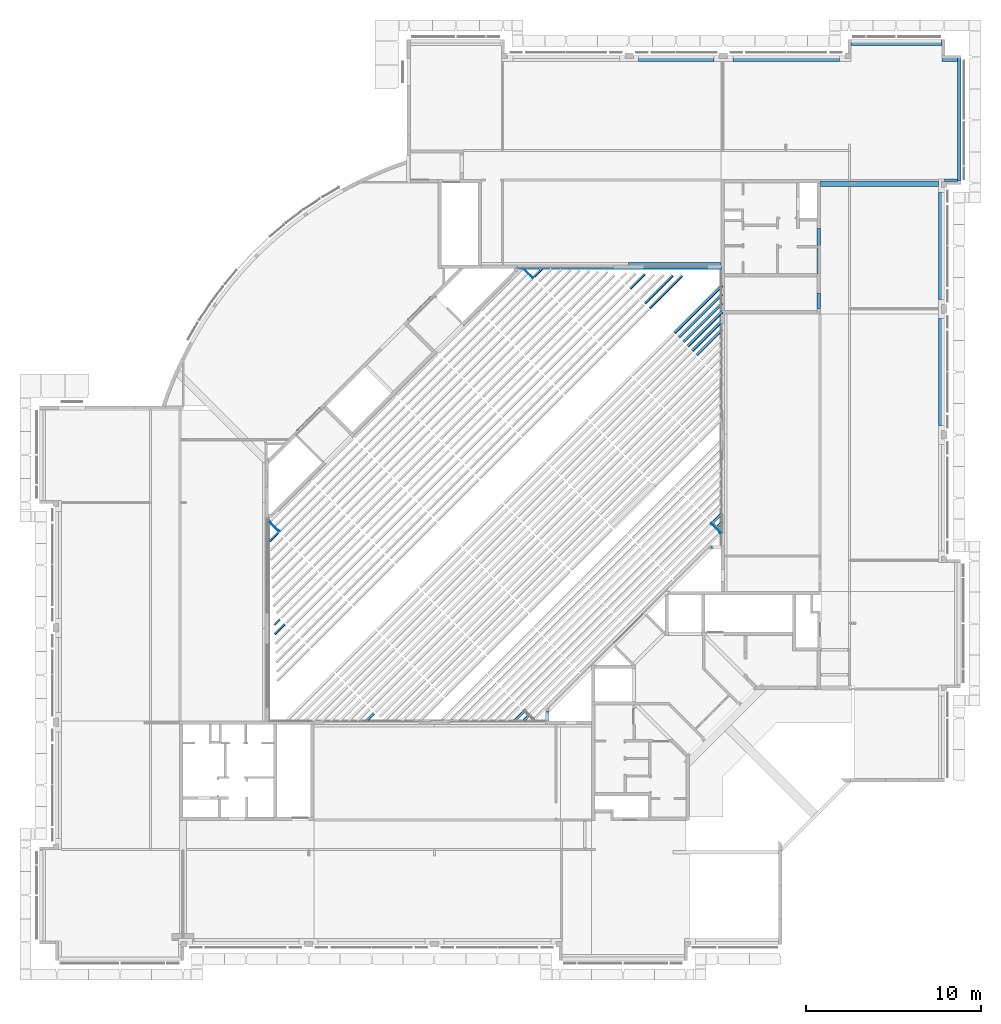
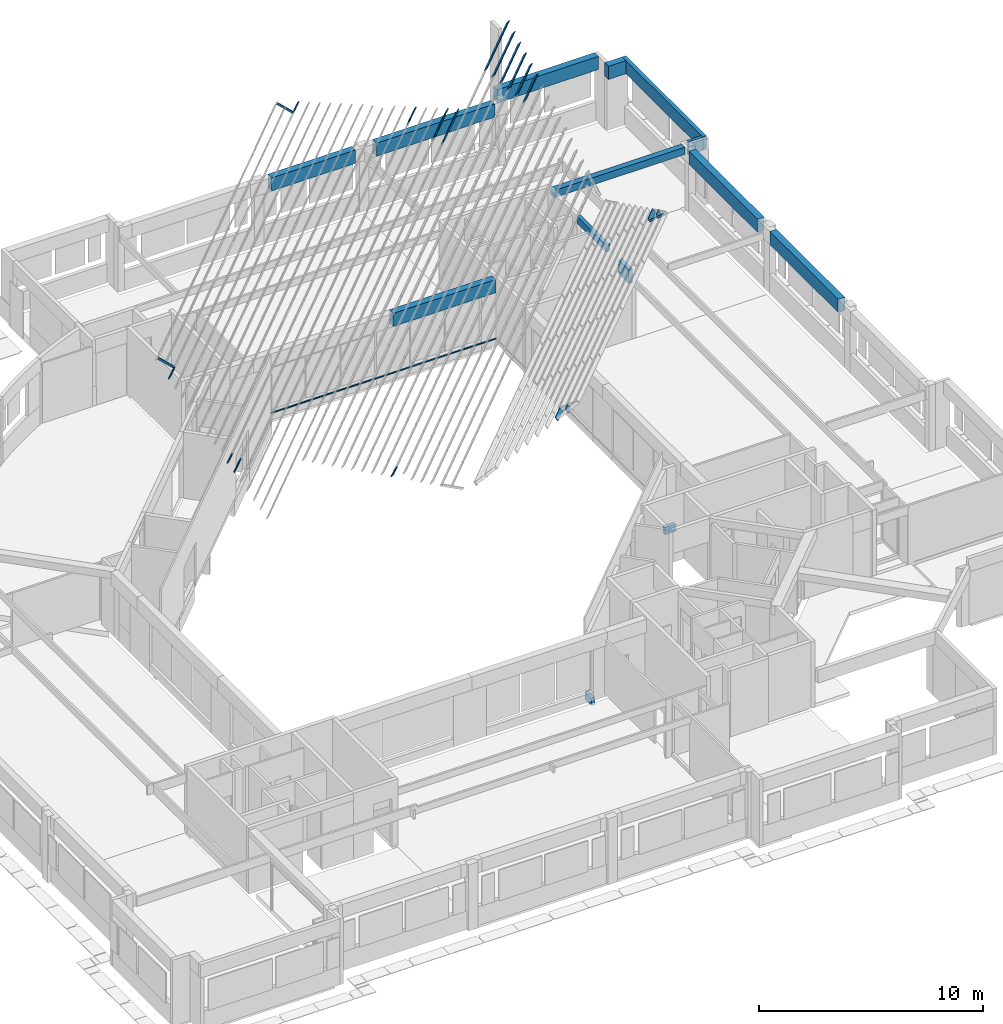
# One storey, part 14 of 37: 35 beams, 1 member.
"""IFC4X3_ADD2 building model written with IfcOpenShell, lengths in millimetres."""

from ifc_helpers import new_model, si_unit, direction, frame, frame_2d, origin_with_axes, origin_2d_with_axis, place, context, subcontext, project, spatial, rectangle, extrude, polygons, source, transform, mapped, material, type_object, type_shapes, element, save


model = new_model("IFC4X3_ADD2")

# Units and contexts
model_context = context("Model", 3, precision=1e-05, world=origin_with_axes(), true_north=direction((0.0, 1.0)))
body_context = subcontext(model_context, "Body", "Model", "MODEL_VIEW")
ifc_project = project(units=[si_unit("LENGTHUNIT", "METRE", prefix="MILLI"), si_unit("AREAUNIT", "SQUARE_METRE"), si_unit("VOLUMEUNIT", "CUBIC_METRE"), si_unit("PLANEANGLEUNIT", "RADIAN"), si_unit("TIMEUNIT", "SECOND"), si_unit("MASSUNIT", "GRAM")], contexts=[model_context])

# Site, building, storey
site_placement = place(None, origin_with_axes())
site = spatial("IfcSite", under=ifc_project, at=site_placement, Name="Site", CompositionType="ELEMENT")
building_placement = place(site_placement, origin_with_axes())
building = spatial("IfcBuilding", under=site, at=building_placement, Name="IFC Building Story")
storey_placement = place(building_placement, frame((0.0, 0.0, 3600.0), z_axis=(0.0, 0.0, 1.0), x_axis=(1.0, 0.0, 0.0)))
storey = spatial("IfcBuildingStorey", under=building, at=storey_placement, Name="010", Elevation=3600.0)

# Beams
ifc_material_1 = material(Name="BB_Beton_Bestaand")
beam_type_1 = type_object("IfcBeamType", Name="BB_XX_Betonbalk_ rechthoekig_ center-center_SFB_340 x 720 mm1", PredefinedType="NOTDEFINED")
shared_shape_1 = source(origin_with_axes(), body_context, "Body", "SweptSolid", [
    extrude(rectangle(XDim=5209.99999999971, YDim=340.0, at=origin_2d_with_axis()), frame((-1.450644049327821e-10, 0.0, -360.0), z_axis=(0.0, 0.0, 1.0), x_axis=(1.0, 0.0, 0.0)), (0.0, 0.0, 1.0), 720.0),
])
type_shapes(beam_type_1, [shared_shape_1])
beam_1_placement = place(storey_placement, frame((-2665.0, 51525.0, 3040.0), z_axis=(0.0, 0.0, 1.0), x_axis=(1.0, 0.0, 0.0)))
element("IfcBeam", 1, at=beam_1_placement, inside=storey, type_object=beam_type_1, material=ifc_material_1, Name="BB_XX_Betonbalk, rechthoekig, center-center_SFB:340 x 720 mm", ObjectType="340 x 720 mm", PredefinedType="BEAM", context=body_context, shape_type="MappedRepresentation", body=[
    mapped(shared_shape_1, transform((0.0, 0.0, 0.0))),
])
beam_type_2 = type_object("IfcBeamType", Name="BB_XX_Betonbalk_ rechthoekig_ center-center_SFB_340 x 720 mm33", PredefinedType="NOTDEFINED")
shared_shape_2 = source(origin_with_axes(), body_context, "Body", "SweptSolid", [
    extrude(rectangle(XDim=5299.99593411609, YDim=340.0, at=origin_2d_with_axis()), frame((-5.002220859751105e-12, 0.0, -360.0), z_axis=(0.0, 0.0, 1.0), x_axis=(1.0, 0.0, 0.0)), (0.0, 0.0, 1.0), 720.0),
])
type_shapes(beam_type_2, [shared_shape_2])
beam_2_placement = place(storey_placement, frame((-15350.002032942, 38775.0, 3040.0), z_axis=(0.0, 0.0, 1.0), x_axis=(-1.0, 0.0, 0.0)))
element("IfcBeam", 2, at=beam_2_placement, inside=storey, type_object=beam_type_2, material=ifc_material_1, Name="BB_XX_Betonbalk, rechthoekig, center-center_SFB:340 x 720 mm", ObjectType="340 x 720 mm", PredefinedType="BEAM", context=body_context, shape_type="MappedRepresentation", body=[
    mapped(shared_shape_2, transform((0.0, 0.0, 0.0))),
])
beam_type_3 = type_object("IfcBeamType", Name="BB_XX_Betonbalk_ rechthoekig_ center-center_SFB_200 x 380 mm", PredefinedType="NOTDEFINED")
shared_shape_3 = source(origin_with_axes(), body_context, "Body", "SweptSolid", [
    extrude(rectangle(XDim=2599.99999999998, YDim=200.0, at=origin_2d_with_axis()), frame((-1.000444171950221e-11, 0.0, -190.0), z_axis=(0.0, 0.0, 1.0), x_axis=(1.0, 0.0, 0.0)), (0.0, 0.0, 1.0), 380.0),
])
type_shapes(beam_type_3, [shared_shape_3])
beam_3_placement = place(storey_placement, frame((-7100.0, 39600.0, 3330.0), z_axis=(0.0, 0.0, 1.0), x_axis=(0.0, 1.0, 0.0)))
element("IfcBeam", 3, at=beam_3_placement, inside=storey, type_object=beam_type_3, material=ifc_material_1, Name="BB_XX_Betonbalk, rechthoekig, center-center_SFB:200 x 380 mm", ObjectType="200 x 380 mm", PredefinedType="BEAM", context=body_context, shape_type="MappedRepresentation", body=[
    mapped(shared_shape_3, transform((0.0, 0.0, 0.0))),
])
beam_type_4 = type_object("IfcBeamType", Name="BB_XX_Betonbalk_ rechthoekig_ center-center_SFB_340 x 720 mm101", PredefinedType="NOTDEFINED")
shared_shape_4 = source(origin_with_axes(), body_context, "Body", "SweptSolid", [
    extrude(rectangle(XDim=6109.99999999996, YDim=340.0, at=origin_2d_with_axis()), frame((-5.002220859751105e-12, 0.0, -360.0), z_axis=(0.0, 0.0, 1.0), x_axis=(1.0, 0.0, 0.0)), (0.0, 0.0, 1.0), 720.0),
])
type_shapes(beam_type_4, [shared_shape_4])
for number, where, z_axis, x_axis in (
    (4, (-75.0, 32680.0, 3040.0), (0.0, 0.0, 1.0), (0.0, -1.0, 0.0)),
    (5, (-75.0, 39880.0, 3040.0), (0.0, 0.0, 1.0), (0.0, -1.0, 0.0)),
    (6, (-8965.0, 50625.0, 3040.0), (0.0, 0.0, 1.0), (1.0, 0.0, 0.0)),
):
    element("IfcBeam", number, at=place(storey_placement, frame(where, z_axis=z_axis, x_axis=x_axis)), inside=storey, type_object=beam_type_4, material=ifc_material_1, Name="BB_XX_Betonbalk, rechthoekig, center-center_SFB:340 x 720 mm", ObjectType="340 x 720 mm", PredefinedType="BEAM", context=body_context, shape_type="MappedRepresentation", body=[
        mapped(shared_shape_4, transform((0.0, 0.0, 0.0))),
    ])
beam_type_5 = type_object("IfcBeamType", Name="BB_XX_Betonbalk_ rechthoekig_ center-center_SFB_340 x 720 mm105", PredefinedType="NOTDEFINED")
shared_shape_5 = source(origin_with_axes(), body_context, "Body", "SweptSolid", [
    extrude(rectangle(XDim=4309.99999999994, YDim=340.0, at=origin_2d_with_axis()), frame((-5.002220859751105e-12, 0.0, -360.0), z_axis=(0.0, 0.0, 1.0), x_axis=(1.0, 0.0, 0.0)), (0.0, 0.0, 1.0), 720.0),
])
type_shapes(beam_type_5, [shared_shape_5])
beam_4_placement = place(storey_placement, frame((-15265.0, 50625.0, 3040.0), z_axis=(0.0, 0.0, 1.0), x_axis=(1.0, 0.0, 0.0)))
element("IfcBeam", 7, at=beam_4_placement, inside=storey, type_object=beam_type_5, material=ifc_material_1, Name="BB_XX_Betonbalk, rechthoekig, center-center_SFB:340 x 720 mm", ObjectType="340 x 720 mm", PredefinedType="BEAM", context=body_context, shape_type="MappedRepresentation", body=[
    mapped(shared_shape_5, transform((0.0, 0.0, 0.0))),
])
beam_type_6 = type_object("IfcBeamType", Name="BB_XX_Betonbalk_ rechthoekig_ center-center_SFB_340 x 720 mm125", PredefinedType="NOTDEFINED")
shared_shape_6 = source(origin_with_axes(), body_context, "Body", "SweptSolid", [
    extrude(rectangle(XDim=900.000000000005, YDim=340.0, at=origin_2d_with_axis()), frame((-17.49999999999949, 0.0, -360.0), z_axis=(0.0, 0.0, 1.0), x_axis=(1.0, 0.0, 0.0)), (0.0, 0.0, 1.0), 720.0),
])
type_shapes(beam_type_6, [shared_shape_6])
beam_5_placement = place(storey_placement, frame((407.499999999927, 50625.0, 3040.0), z_axis=(0.0, 0.0, 1.0), x_axis=(1.0, 0.0, 0.0)))
element("IfcBeam", 8, at=beam_5_placement, inside=storey, type_object=beam_type_6, material=ifc_material_1, Name="BB_XX_Betonbalk, rechthoekig, center-center_SFB:340 x 720 mm", ObjectType="340 x 720 mm", PredefinedType="BEAM", context=body_context, shape_type="MappedRepresentation", body=[
    mapped(shared_shape_6, transform((0.0, 0.0, 0.0))),
])
beam_type_7 = type_object("IfcBeamType", Name="BB_XX_Betonbalk_ rechthoekig_ center-center_SFB_190 x 720 mm15", PredefinedType="NOTDEFINED")
shared_shape_7 = source(origin_with_axes(), body_context, "Body", "SweptSolid", [
    extrude(rectangle(XDim=7200.00000000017, YDim=190.0, at=origin_2d_with_axis()), frame((-5.002220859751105e-12, 0.0, -360.0), z_axis=(0.0, 0.0, 1.0), x_axis=(1.0, 0.0, 0.0)), (0.0, 0.0, 1.0), 720.0),
])
type_shapes(beam_type_7, [shared_shape_7])
beam_6_placement = place(storey_placement, frame((935.0, 47195.0, 3040.0), z_axis=(0.0, 0.0, 1.0), x_axis=(0.0, -1.0, 0.0)))
element("IfcBeam", 9, at=beam_6_placement, inside=storey, type_object=beam_type_7, material=ifc_material_1, Name="BB_XX_Betonbalk, rechthoekig, center-center_SFB:190 x 720 mm", ObjectType="190 x 720 mm", PredefinedType="BEAM", context=body_context, shape_type="MappedRepresentation", body=[
    mapped(shared_shape_7, transform((0.0, 0.0, 0.0))),
])
beam_type_8 = type_object("IfcBeamType", Name="BB_XX_Betonbalk_ rechthoekig_ center-center_SFB_150 x 720 mm3", PredefinedType="NOTDEFINED")
shared_shape_8 = source(origin_with_axes(), body_context, "Body", "SweptSolid", [
    extrude(rectangle(XDim=745.000000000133, YDim=150.0, at=origin_2d_with_axis()), frame((467.5000000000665, 43650.0, 6280.0), z_axis=(0.0, 0.0, 1.0), x_axis=(1.0, 0.0, 0.0)), (0.0, 0.0, 1.0), 720.000000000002),
])
type_shapes(beam_type_8, [shared_shape_8])
beam_7_placement = place(storey_placement, frame((0.0, 0.0, -3600.0), z_axis=(0.0, 0.0, 1.0), x_axis=(1.0, 0.0, 0.0)))
element("IfcBeam", 10, at=beam_7_placement, inside=storey, type_object=beam_type_8, material=ifc_material_1, Name="BB_XX_Betonbalk, rechthoekig, center-center_SFB:150 x 720 mm", ObjectType="150 x 720 mm", PredefinedType="BEAM", context=body_context, shape_type="MappedRepresentation", body=[
    mapped(shared_shape_8, transform((0.0, 0.0, 0.0))),
])
beam_type_9 = type_object("IfcBeamType", Name="BB_XX_Betonbalk_ rechthoekig_ center-center_SFB_200 x 770 mm1", PredefinedType="NOTDEFINED")
shared_shape_9 = source(origin_with_axes(), body_context, "Body", "SweptSolid", [
    extrude(rectangle(XDim=910.000000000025, YDim=200.0, at=origin_2d_with_axis()), frame((1.250555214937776e-11, 0.0, -385.0), z_axis=(0.0, 0.0, 1.0), x_axis=(1.0, 0.0, 0.0)), (0.0, 0.0, 1.0), 770.0),
])
type_shapes(beam_type_9, [shared_shape_9])
beam_8_placement = place(storey_placement, frame((-7100.0, 36755.0, 3015.0), z_axis=(0.0, 0.0, 1.0), x_axis=(0.0, -1.0, 0.0)))
element("IfcBeam", 11, at=beam_8_placement, inside=storey, type_object=beam_type_9, material=ifc_material_1, Name="BB_XX_Betonbalk, rechthoekig, center-center_SFB:200 x 770 mm", ObjectType="200 x 770 mm", PredefinedType="BEAM", context=body_context, shape_type="MappedRepresentation", body=[
    mapped(shared_shape_9, transform((0.0, 0.0, 0.0))),
])
beam_type_10 = type_object("IfcBeamType", Name="BB_XX_Betonbalk_ rechthoekig_ center-center_SFB_300 x 390 mm", PredefinedType="NOTDEFINED")
shared_shape_10 = source(origin_with_axes(), body_context, "Body", "SweptSolid", [
    extrude(rectangle(XDim=6755.00000000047, YDim=300.0, at=origin_2d_with_axis()), frame((-3622.500000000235, 43445.00000000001, 6609.999999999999), z_axis=(0.0, 0.0, 1.0), x_axis=(1.0, 0.0, 0.0)), (0.0, 0.0, 1.0), 390.0),
])
type_shapes(beam_type_10, [shared_shape_10])
beam_9_placement = place(storey_placement, frame((0.0, 0.0, -3600.0), z_axis=(0.0, 0.0, 1.0), x_axis=(1.0, 0.0, 0.0)))
element("IfcBeam", 12, at=beam_9_placement, inside=storey, type_object=beam_type_10, material=ifc_material_1, Name="BB_XX_Betonbalk, rechthoekig, center-center_SFB:300 x 390 mm", ObjectType="300 x 390 mm", PredefinedType="BEAM", context=body_context, shape_type="MappedRepresentation", body=[
    mapped(shared_shape_10, transform((0.0, 0.0, 0.0))),
])
ifc_material_2 = material(Name="GVH_i2_naaldhout_generiek")
beam_type_11 = type_object("IfcBeamType", Name="28_SF_hout_rechthoekig_40 x 230_29", PredefinedType="NOTDEFINED")
shared_shape_11 = source(origin_with_axes(), body_context, "Body", "SweptSolid", [
    extrude(rectangle(XDim=686.355481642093, YDim=40.0000000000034, at=origin_2d_with_axis()), frame((-12.36569374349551, 0.0, -115.0), z_axis=(0.0, 0.0, 1.0), x_axis=(1.0, 0.0, 0.0)), (0.0, 0.0, 1.0), 229.9999999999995),
])
type_shapes(beam_type_11, [shared_shape_11])
beam_10_placement = place(storey_placement, frame((-23172.8078266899, 38351.0387200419, 16580.2158983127), z_axis=(0.311937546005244, -0.311937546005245, 0.8974351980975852), x_axis=(-0.7071067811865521, -0.707106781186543, 0.0)))
element("IfcBeam", 13, at=beam_10_placement, inside=storey, type_object=beam_type_11, material=ifc_material_2, Name="28_SF_hout_rechthoekig:40 x 230", ObjectType="40 x 230", PredefinedType="BEAM", context=body_context, shape_type="MappedRepresentation", body=[
    mapped(shared_shape_11, transform((0.0, 0.0, 0.0))),
])
beam_type_12 = type_object("IfcBeamType", Name="28_SF_hout_rechthoekig_40 x 230_245", PredefinedType="NOTDEFINED")
shared_shape_12 = source(origin_with_axes(), body_context, "Body", "SweptSolid", [
    extrude(rectangle(XDim=2615.4135275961, YDim=40.0000000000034, at=origin_2d_with_axis()), frame((11.85183657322, 0.0, -115.0), z_axis=(0.0, 0.0, 1.0), x_axis=(1.0, 0.0, 0.0)), (0.0, 0.0, 1.0), 229.9999999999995),
])
type_shapes(beam_type_12, [shared_shape_12])
beam_11_placement = place(storey_placement, frame((-15842.3803972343, 37251.6720301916, 13650.1221194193), z_axis=(0.311937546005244, -0.311937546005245, 0.8974351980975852), x_axis=(-0.7071067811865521, -0.707106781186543, 0.0)))
element("IfcBeam", 14, at=beam_11_placement, inside=storey, type_object=beam_type_12, material=ifc_material_2, Name="28_SF_hout_rechthoekig:40 x 230", ObjectType="40 x 230", PredefinedType="BEAM", context=body_context, shape_type="MappedRepresentation", body=[
    mapped(shared_shape_12, transform((0.0, 0.0, 0.0))),
])
beam_type_13 = type_object("IfcBeamType", Name="28_SF_hout_rechthoekig_40 x 230_247", PredefinedType="NOTDEFINED")
shared_shape_13 = source(origin_with_axes(), body_context, "Body", "SweptSolid", [
    extrude(rectangle(XDim=2258.99093990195, YDim=40.0000000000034, at=origin_2d_with_axis()), frame((-59.93700422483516, 0.0, -115.0), z_axis=(0.0, 0.0, 1.0), x_axis=(1.0, 0.0, 0.0)), (0.0, 0.0, 1.0), 230.0),
])
type_shapes(beam_type_13, [shared_shape_13])
beam_12_placement = place(storey_placement, frame((-16300.1502298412, 37355.8884722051, 13845.4617046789), z_axis=(0.311937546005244, -0.311937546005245, 0.8974351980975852), x_axis=(-0.7071067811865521, -0.707106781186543, 0.0)))
element("IfcBeam", 15, at=beam_12_placement, inside=storey, type_object=beam_type_13, material=ifc_material_2, Name="28_SF_hout_rechthoekig:40 x 230", ObjectType="40 x 230", PredefinedType="BEAM", context=body_context, shape_type="MappedRepresentation", body=[
    mapped(shared_shape_13, transform((0.0, 0.0, 0.0))),
])
beam_type_14 = type_object("IfcBeamType", Name="28_SF_hout_rechthoekig_40 x 230_253", PredefinedType="NOTDEFINED")
shared_shape_14 = source(origin_with_axes(), body_context, "Body", "SweptSolid", [
    extrude(rectangle(XDim=1189.72317684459, YDim=40.0000000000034, at=origin_2d_with_axis()), frame((-45.303526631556, 0.0, -115.0), z_axis=(0.0, 0.0, 1.0), x_axis=(1.0, 0.0, 0.0)), (0.0, 0.0, 1.0), 230.0),
])
type_shapes(beam_type_14, [shared_shape_14])
beam_13_placement = place(storey_placement, frame((-17510.8251679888, 37831.1723579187, 14431.4804604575), z_axis=(0.311937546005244, -0.311937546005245, 0.8974351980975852), x_axis=(-0.7071067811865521, -0.707106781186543, 0.0)))
element("IfcBeam", 16, at=beam_13_placement, inside=storey, type_object=beam_type_14, material=ifc_material_2, Name="28_SF_hout_rechthoekig:40 x 230", ObjectType="40 x 230", PredefinedType="BEAM", context=body_context, shape_type="MappedRepresentation", body=[
    mapped(shared_shape_14, transform((0.0, 0.0, 0.0))),
])
beam_type_15 = type_object("IfcBeamType", Name="28_SF_hout_rechthoekig_40 x 230_289", PredefinedType="NOTDEFINED")
shared_shape_15 = source(origin_with_axes(), body_context, "Body", "SweptSolid", [
    extrude(rectangle(XDim=685.874240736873, YDim=40.0000000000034, at=origin_2d_with_axis()), frame((-4.815851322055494, 0.0, -115.0), z_axis=(0.0, 0.0, 1.0), x_axis=(1.0, 0.0, 0.0)), (0.0, 0.0, 1.0), 230.0),
])
type_shapes(beam_type_15, [shared_shape_15])
beam_14_placement = place(storey_placement, frame((-38292.3170632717, 23231.5294834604, 16580.2158983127), z_axis=(0.311937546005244, -0.311937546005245, 0.8974351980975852), x_axis=(-0.7071067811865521, -0.707106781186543, 0.0)))
element("IfcBeam", 17, at=beam_14_placement, inside=storey, type_object=beam_type_15, material=ifc_material_2, Name="28_SF_hout_rechthoekig:40 x 230", ObjectType="40 x 230", PredefinedType="BEAM", context=body_context, shape_type="MappedRepresentation", body=[
    mapped(shared_shape_15, transform((0.0, 0.0, 0.0))),
])
beam_type_16 = type_object("IfcBeamType", Name="28_SF_hout_rechthoekig_40 x 230_301", PredefinedType="NOTDEFINED")
shared_shape_16 = source(origin_with_axes(), body_context, "Body", "SweptSolid", [
    extrude(rectangle(XDim=833.30944435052, YDim=40.0000000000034, at=origin_2d_with_axis()), frame((-21.09785506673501, 0.0, -115.0), z_axis=(0.0, 0.0, 1.0), x_axis=(1.0, 0.0, 0.0)), (0.0, 0.0, 1.0), 230.0),
])
type_shapes(beam_type_16, [shared_shape_16])
beam_15_placement = place(storey_placement, frame((-37962.4001680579, 17941.5836324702, 14626.8200457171), z_axis=(0.311937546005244, -0.311937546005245, 0.8974351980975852), x_axis=(-0.7071067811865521, -0.707106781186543, 0.0)))
element("IfcBeam", 18, at=beam_15_placement, inside=storey, type_object=beam_type_16, material=ifc_material_2, Name="28_SF_hout_rechthoekig:40 x 230", ObjectType="40 x 230", PredefinedType="BEAM", context=body_context, shape_type="MappedRepresentation", body=[
    mapped(shared_shape_16, transform((0.0, 0.0, 0.0))),
])
beam_type_17 = type_object("IfcBeamType", Name="28_SF_hout_rechthoekig_40 x 230_303", PredefinedType="NOTDEFINED")
shared_shape_17 = source(origin_with_axes(), body_context, "Body", "SweptSolid", [
    extrude(rectangle(XDim=476.88671695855, YDim=40.0000000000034, at=origin_2d_with_axis()), frame((-9.309365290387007, 0.0, -115.0), z_axis=(0.0, 0.0, 1.0), x_axis=(1.0, 0.0, 0.0)), (0.0, 0.0, 1.0), 230.0),
])
type_shapes(beam_type_17, [shared_shape_17])
beam_16_placement = place(storey_placement, frame((-38109.0430169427, 18356.9270582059, 14822.1596309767), z_axis=(0.311937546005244, -0.311937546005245, 0.8974351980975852), x_axis=(-0.7071067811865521, -0.707106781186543, 0.0)))
element("IfcBeam", 19, at=beam_16_placement, inside=storey, type_object=beam_type_17, material=ifc_material_2, Name="28_SF_hout_rechthoekig:40 x 230", ObjectType="40 x 230", PredefinedType="BEAM", context=body_context, shape_type="MappedRepresentation", body=[
    mapped(shared_shape_17, transform((0.0, 0.0, 0.0))),
])
beam_type_18 = type_object("IfcBeamType", Name="28_SF_hout_rechthoekig_40 x 230_527", PredefinedType="NOTDEFINED")
shared_shape_18 = source(origin_with_axes(), body_context, "Body", "SweptSolid", [
    extrude(rectangle(XDim=3859.79559558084, YDim=40.0000000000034, at=origin_2d_with_axis()), frame((-240.9371316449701, 0.0, -115.0), z_axis=(0.0, 0.0, 1.0), x_axis=(1.0, 0.0, 0.0)), (0.0, 0.0, 1.0), 229.9999999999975),
])
type_shapes(beam_type_18, [shared_shape_18])
beam_17_placement = place(storey_placement, frame((-14171.9470980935, 36103.6609337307, 18004.9050090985), z_axis=(0.4307932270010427, -0.4307932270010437, 0.7929907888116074), x_axis=(-0.7071067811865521, -0.707106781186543, 0.0)))
element("IfcBeam", 20, at=beam_17_placement, inside=storey, type_object=beam_type_18, material=ifc_material_2, Name="28_SF_hout_rechthoekig:40 x 230", ObjectType="40 x 230", PredefinedType="BEAM", context=body_context, shape_type="MappedRepresentation", body=[
    mapped(shared_shape_18, transform((0.0, 0.0, 0.0))),
])
beam_type_19 = type_object("IfcBeamType", Name="28_SF_hout_rechthoekig_40 x 230_529", PredefinedType="NOTDEFINED")
shared_shape_19 = source(origin_with_axes(), body_context, "Body", "SweptSolid", [
    extrude(rectangle(XDim=3500.57798547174, YDim=40.0000000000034, at=origin_2d_with_axis()), frame((-61.32837765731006, 0.0, -115.0), z_axis=(0.0, 0.0, 1.0), x_axis=(1.0, 0.0, 0.0)), (0.0, 0.0, 1.0), 229.9999999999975),
])
type_shapes(beam_type_19, [shared_shape_19])
beam_18_placement = place(storey_placement, frame((-13917.9367867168, 35849.6506223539, 17728.9221773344), z_axis=(0.4307932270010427, -0.4307932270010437, 0.7929907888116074), x_axis=(-0.7071067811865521, -0.707106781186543, 0.0)))
element("IfcBeam", 21, at=beam_18_placement, inside=storey, type_object=beam_type_19, material=ifc_material_2, Name="28_SF_hout_rechthoekig:40 x 230", ObjectType="40 x 230", PredefinedType="BEAM", context=body_context, shape_type="MappedRepresentation", body=[
    mapped(shared_shape_19, transform((0.0, 0.0, 0.0))),
])
beam_type_20 = type_object("IfcBeamType", Name="28_SF_hout_rechthoekig_40 x 230_531", PredefinedType="NOTDEFINED")
shared_shape_20 = source(origin_with_axes(), body_context, "Body", "SweptSolid", [
    extrude(rectangle(XDim=3141.34473772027, YDim=40.0000000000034, at=origin_2d_with_axis()), frame((118.2881951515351, 0.0, -115.0), z_axis=(0.0, 0.0, 1.0), x_axis=(1.0, 0.0, 0.0)), (0.0, 0.0, 1.0), 229.999999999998),
])
type_shapes(beam_type_20, [shared_shape_20])
beam_19_placement = place(storey_placement, frame((-13663.92647534, 35595.6403109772, 17452.9393455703), z_axis=(0.4307932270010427, -0.4307932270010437, 0.7929907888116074), x_axis=(-0.7071067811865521, -0.707106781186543, 0.0)))
element("IfcBeam", 22, at=beam_19_placement, inside=storey, type_object=beam_type_20, material=ifc_material_2, Name="28_SF_hout_rechthoekig:40 x 230", ObjectType="40 x 230", PredefinedType="BEAM", context=body_context, shape_type="MappedRepresentation", body=[
    mapped(shared_shape_20, transform((0.0, 0.0, 0.0))),
])
beam_type_21 = type_object("IfcBeamType", Name="28_SF_hout_rechthoekig_40 x 230_533", PredefinedType="NOTDEFINED")
shared_shape_21 = source(origin_with_axes(), body_context, "Body", "SweptSolid", [
    extrude(rectangle(XDim=2782.1272817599, YDim=40.0000000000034, at=origin_2d_with_axis()), frame((297.89687206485, 0.0, -115.0), z_axis=(0.0, 0.0, 1.0), x_axis=(1.0, 0.0, 0.0)), (0.0, 0.0, 1.0), 229.999999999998),
])
type_shapes(beam_type_21, [shared_shape_21])
beam_20_placement = place(storey_placement, frame((-13409.9161639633, 35341.6299996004, 17176.9565138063), z_axis=(0.4307932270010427, -0.4307932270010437, 0.7929907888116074), x_axis=(-0.7071067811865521, -0.707106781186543, 0.0)))
element("IfcBeam", 23, at=beam_20_placement, inside=storey, type_object=beam_type_21, material=ifc_material_2, Name="28_SF_hout_rechthoekig:40 x 230", ObjectType="40 x 230", PredefinedType="BEAM", context=body_context, shape_type="MappedRepresentation", body=[
    mapped(shared_shape_21, transform((0.0, 0.0, 0.0))),
])
beam_type_22 = type_object("IfcBeamType", Name="28_SF_hout_rechthoekig_40 x 230_535", PredefinedType="NOTDEFINED")
shared_shape_22 = source(origin_with_axes(), body_context, "Body", "SweptSolid", [
    extrude(rectangle(XDim=2422.89402378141, YDim=40.0000000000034, at=origin_2d_with_axis()), frame((477.5134499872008, 0.0, -115.0), z_axis=(0.0, 0.0, 1.0), x_axis=(1.0, 0.0, 0.0)), (0.0, 0.0, 1.0), 229.9999999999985),
])
type_shapes(beam_type_22, [shared_shape_22])
beam_21_placement = place(storey_placement, frame((-13155.9058525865, 35087.6196882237, 16900.9736820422), z_axis=(0.4307932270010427, -0.4307932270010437, 0.7929907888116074), x_axis=(-0.7071067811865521, -0.707106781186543, 0.0)))
element("IfcBeam", 24, at=beam_21_placement, inside=storey, type_object=beam_type_22, material=ifc_material_2, Name="28_SF_hout_rechthoekig:40 x 230", ObjectType="40 x 230", PredefinedType="BEAM", context=body_context, shape_type="MappedRepresentation", body=[
    mapped(shared_shape_22, transform((0.0, 0.0, 0.0))),
])
beam_type_23 = type_object("IfcBeamType", Name="28_SF_hout_rechthoekig_40 x 230_537", PredefinedType="NOTDEFINED")
shared_shape_23 = source(origin_with_axes(), body_context, "Body", "SweptSolid", [
    extrude(rectangle(XDim=2063.66865420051, YDim=40.0000000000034, at=origin_2d_with_axis()), frame((657.1260837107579, 0.0, -115.0), z_axis=(0.0, 0.0, 1.0), x_axis=(1.0, 0.0, 0.0)), (0.0, 0.0, 1.0), 229.9999999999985),
])
type_shapes(beam_type_23, [shared_shape_23])
beam_22_placement = place(storey_placement, frame((-12901.8955412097, 34833.6093768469, 16624.9908502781), z_axis=(0.4307932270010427, -0.4307932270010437, 0.7929907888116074), x_axis=(-0.7071067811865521, -0.707106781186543, 0.0)))
element("IfcBeam", 25, at=beam_22_placement, inside=storey, type_object=beam_type_23, material=ifc_material_2, Name="28_SF_hout_rechthoekig:40 x 230", ObjectType="40 x 230", PredefinedType="BEAM", context=body_context, shape_type="MappedRepresentation", body=[
    mapped(shared_shape_23, transform((0.0, 0.0, 0.0))),
])
beam_type_24 = type_object("IfcBeamType", Name="28_SF_hout_rechthoekig_40 x 230_579", PredefinedType="NOTDEFINED")
shared_shape_24 = source(origin_with_axes(), body_context, "Body", "SweptSolid", [
    extrude(rectangle(XDim=626.761357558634, YDim=40.0000000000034, at=origin_2d_with_axis()), frame((-1385.732588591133, 0.0, -115.0), z_axis=(0.0, 0.0, 1.0), x_axis=(1.0, 0.0, 0.0)), (0.0, 0.0, 1.0), 230.0),
])
type_shapes(beam_type_24, [shared_shape_24])
beam_23_placement = place(storey_placement, frame((-33754.0390570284, 11949.3833700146, 15521.0595232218), z_axis=(0.4307932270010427, -0.4307932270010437, 0.7929907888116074), x_axis=(-0.7071067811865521, -0.707106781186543, 0.0)))
element("IfcBeam", 26, at=beam_23_placement, inside=storey, type_object=beam_type_24, material=ifc_material_2, Name="28_SF_hout_rechthoekig:40 x 230", ObjectType="40 x 230", PredefinedType="BEAM", context=body_context, shape_type="MappedRepresentation", body=[
    mapped(shared_shape_24, transform((0.0, 0.0, 0.0))),
])
beam_type_25 = type_object("IfcBeamType", Name="28_SF_hout_rechthoekig_40 x 230_685", PredefinedType="NOTDEFINED")
shared_shape_25 = source(origin_with_axes(), body_context, "Body", "SweptSolid", [
    extrude(rectangle(XDim=771.853757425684, YDim=40.0000000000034, at=origin_2d_with_axis()), frame((-1355.992385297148, 0.0, -115.0), z_axis=(0.0, 0.0, 1.0), x_axis=(1.0, 0.0, 0.0)), (0.0, 0.0, 1.0), 230.0),
])
type_shapes(beam_type_25, [shared_shape_25])
beam_24_placement = place(storey_placement, frame((-11960.1564284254, 25285.1925624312, 15633.2169420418), z_axis=(-0.4034072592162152, 0.4034072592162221, 0.8212948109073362), x_axis=(0.7071067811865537, 0.7071067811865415, 0.0)))
element("IfcBeam", 27, at=beam_24_placement, inside=storey, type_object=beam_type_25, material=ifc_material_2, Name="28_SF_hout_rechthoekig:40 x 230", ObjectType="40 x 230", PredefinedType="BEAM", context=body_context, shape_type="MappedRepresentation", body=[
    mapped(shared_shape_25, transform((0.0, 0.0, 0.0))),
])
beam_type_26 = type_object("IfcBeamType", Name="28_SF_hout_rechthoekig_40 x 230_703", PredefinedType="NOTDEFINED")
shared_shape_26 = source(origin_with_axes(), body_context, "Body", "SweptSolid", [
    extrude(rectangle(XDim=771.8685560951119, YDim=40.0000000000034, at=origin_2d_with_axis()), frame((1562.557655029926, 0.0, -115.0), z_axis=(0.0, 0.0, 1.0), x_axis=(1.0, 0.0, 0.0)), (0.0, 0.0, 1.0), 230.0),
])
type_shapes(beam_type_26, [shared_shape_26])
beam_25_placement = place(storey_placement, frame((-25360.539334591, 11884.8096562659, 15633.2169420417), z_axis=(-0.4034072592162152, 0.4034072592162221, 0.8212948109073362), x_axis=(0.7071067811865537, 0.7071067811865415, 0.0)))
element("IfcBeam", 28, at=beam_25_placement, inside=storey, type_object=beam_type_26, material=ifc_material_2, Name="28_SF_hout_rechthoekig:40 x 230", ObjectType="40 x 230", PredefinedType="BEAM", context=body_context, shape_type="MappedRepresentation", body=[
    mapped(shared_shape_26, transform((0.0, 0.0, 0.0))),
])
beam_type_27 = type_object("IfcBeamType", Name="28_SF_hout_rechthoekig_40 x 230_705", PredefinedType="NOTDEFINED")
shared_shape_27 = source(origin_with_axes(), body_context, "Body", "SweptSolid", [
    extrude(rectangle(XDim=369.694893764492, YDim=40.0000000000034, at=origin_2d_with_axis()), frame((-16.72438736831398, 0.0, -115.0), z_axis=(0.0, 0.0, 1.0), x_axis=(1.0, 0.0, 0.0)), (0.0, 0.0, 1.0), 230.0),
])
type_shapes(beam_type_27, [shared_shape_27])
beam_26_placement = place(storey_placement, frame((-23854.8398313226, 12869.0018287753, 15889.373245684), z_axis=(-0.4034072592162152, 0.4034072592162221, 0.8212948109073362), x_axis=(0.7071067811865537, 0.7071067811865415, 0.0)))
element("IfcBeam", 29, at=beam_26_placement, inside=storey, type_object=beam_type_27, material=ifc_material_2, Name="28_SF_hout_rechthoekig:40 x 230", ObjectType="40 x 230", PredefinedType="BEAM", context=body_context, shape_type="MappedRepresentation", body=[
    mapped(shared_shape_27, transform((0.0, 0.0, 0.0))),
])
beam_type_28 = type_object("IfcBeamType", Name="28_SF_hout_rechthoekig_40 x 230_709", PredefinedType="NOTDEFINED")
shared_shape_28 = source(origin_with_axes(), body_context, "Body", "SweptSolid", [
    extrude(rectangle(XDim=400.284733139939, YDim=40.0000000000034, at=origin_2d_with_axis()), frame((-105.4644457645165, 0.0, -115.0), z_axis=(0.0, 0.0, 1.0), x_axis=(1.0, 0.0, 0.0)), (0.0, 0.0, 1.0), 230.0),
])
type_shapes(beam_type_28, [shared_shape_28])
beam_27_placement = place(storey_placement, frame((-12851.0572058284, 23872.7844542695, 15889.373245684), z_axis=(-0.4034072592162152, 0.4034072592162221, 0.8212948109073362), x_axis=(-0.7071067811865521, -0.707106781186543, 0.0)))
element("IfcBeam", 30, at=beam_27_placement, inside=storey, type_object=beam_type_28, material=ifc_material_2, Name="28_SF_hout_rechthoekig:40 x 230", ObjectType="40 x 230", PredefinedType="BEAM", context=body_context, shape_type="MappedRepresentation", body=[
    mapped(shared_shape_28, transform((0.0, 0.0, 0.0))),
])
beam_type_29 = type_object("IfcBeamType", Name="28_SF_hout_rechthoekig_40 x 120_5", PredefinedType="NOTDEFINED")
shared_shape_29 = source(origin_with_axes(), body_context, "Body", "SweptSolid", [
    extrude(rectangle(XDim=847.981930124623, YDim=40.0000000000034, at=origin_2d_with_axis()), frame((93.92839431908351, 0.0, -60.0), z_axis=(0.0, 0.0, 1.0), x_axis=(1.0, 0.0, 0.0)), (0.0, 0.0, 1.0), 120.0000000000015),
])
type_shapes(beam_type_29, [shared_shape_29])
beam_28_placement = place(storey_placement, frame((-13060.4178796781, 23789.6384608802, 15845.6423979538), z_axis=(-0.4034072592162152, 0.4034072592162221, 0.8212948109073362), x_axis=(0.5807440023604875, -0.5807422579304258, 0.5705040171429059)))
element("IfcBeam", 31, at=beam_28_placement, inside=storey, type_object=beam_type_29, material=ifc_material_2, Name="28_SF_hout_rechthoekig:40 x 120", ObjectType="40 x 120", PredefinedType="BEAM", context=body_context, shape_type="MappedRepresentation", body=[
    mapped(shared_shape_29, transform((0.0, 0.0, 0.0))),
])
beam_type_30 = type_object("IfcBeamType", Name="28_SF_hout_rechthoekig_40 x 120_7", PredefinedType="NOTDEFINED")
shared_shape_30 = source(origin_with_axes(), body_context, "Body", "SweptSolid", [
    extrude(rectangle(XDim=812.801686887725, YDim=40.0000000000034, at=origin_2d_with_axis()), frame((-26.05832708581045, 0.0, -60.0), z_axis=(0.0, 0.0, 1.0), x_axis=(1.0, 0.0, 0.0)), (0.0, 0.0, 1.0), 119.9999999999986),
])
type_shapes(beam_type_30, [shared_shape_30])
beam_29_placement = place(storey_placement, frame((-38228.7919686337, 23793.7971771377, 16770.287050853), z_axis=(0.311937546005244, -0.311937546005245, 0.8974351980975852), x_axis=(0.6345823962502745, -0.6345826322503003, -0.441146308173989)))
element("IfcBeam", 32, at=beam_29_placement, inside=storey, type_object=beam_type_30, material=ifc_material_2, Name="28_SF_hout_rechthoekig:40 x 120", ObjectType="40 x 120", PredefinedType="BEAM", context=body_context, shape_type="MappedRepresentation", body=[
    mapped(shared_shape_30, transform((0.0, 0.0, 0.0))),
])
beam_type_31 = type_object("IfcBeamType", Name="28_SF_hout_rechthoekig_40 x 120_9", PredefinedType="NOTDEFINED")
shared_shape_31 = source(origin_with_axes(), body_context, "Body", "SweptSolid", [
    extrude(rectangle(XDim=809.988688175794, YDim=40.0000000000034, at=origin_2d_with_axis()), frame((-189.850252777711, 0.0, -60.0), z_axis=(0.0, 0.0, 1.0), x_axis=(1.0, 0.0, 0.0)), (0.0, 0.0, 1.0), 119.9999999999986),
])
type_shapes(beam_type_31, [shared_shape_31])
beam_30_placement = place(storey_placement, frame((-23613.4444803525, 38199.4805973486, 16697.4103740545), z_axis=(0.311937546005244, -0.311937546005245, 0.8974351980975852), x_axis=(0.6345823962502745, -0.6345826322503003, -0.441146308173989)))
element("IfcBeam", 33, at=beam_30_placement, inside=storey, type_object=beam_type_31, material=ifc_material_2, Name="28_SF_hout_rechthoekig:40 x 120", ObjectType="40 x 120", PredefinedType="BEAM", context=body_context, shape_type="MappedRepresentation", body=[
    mapped(shared_shape_31, transform((0.0, 0.0, 0.0))),
])
beam_type_32 = type_object("IfcBeamType", Name="BB_XX_Betonbalk_ rechthoekig_ center-center_SFB_190 x 400 mm", PredefinedType="NOTDEFINED")
shared_shape_32 = source(origin_with_axes(), body_context, "Body", "SweptSolid", [
    extrude(rectangle(XDim=563.0022296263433, YDim=190.0, at=frame_2d((0.0, 0.0), x_axis=(0.0, 1.0))), frame((-22649.8526351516, 12976.50518069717, 3000.0), z_axis=(0.0, 0.0, 1.0), x_axis=(1.0, 0.0, 0.0)), (0.0, 0.0, 1.0), 400.0),
])
type_shapes(beam_type_32, [shared_shape_32])
beam_31_placement = place(storey_placement, frame((0.0, 0.0, -3600.0), z_axis=(0.0, 0.0, 1.0), x_axis=(1.0, 0.0, 0.0)))
element("IfcBeam", 34, at=beam_31_placement, inside=storey, type_object=beam_type_32, material=ifc_material_1, Name="BB_XX_Betonbalk, rechthoekig, center-center_SFB:190 x 400 mm", ObjectType="190 x 400 mm", PredefinedType="BEAM", context=body_context, shape_type="MappedRepresentation", body=[
    mapped(shared_shape_32, transform((0.0, 0.0, 0.0))),
])
beam_type_33 = type_object("IfcBeamType", Name="BB_XX_Betonbalk_ rechthoekig_ center-center_SFB_190 x 400 mm7", PredefinedType="NOTDEFINED")
shared_shape_33 = source(origin_with_axes(), body_context, "Body", "SweptSolid", [
    extrude(rectangle(XDim=552.1004408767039, YDim=190.0, at=origin_2d_with_axis()), frame((-12971.05022043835, 22660.0, 3000.0), z_axis=(0.0, 0.0, 1.0), x_axis=(1.0, 0.0, 0.0)), (0.0, 0.0, 1.0), 400.0),
])
type_shapes(beam_type_33, [shared_shape_33])
beam_32_placement = place(storey_placement, frame((0.0, 0.0, -3600.0), z_axis=(0.0, 0.0, 1.0), x_axis=(1.0, 0.0, 0.0)))
element("IfcBeam", 35, at=beam_32_placement, inside=storey, type_object=beam_type_33, material=ifc_material_1, Name="BB_XX_Betonbalk, rechthoekig, center-center_SFB:190 x 400 mm", ObjectType="190 x 400 mm", PredefinedType="BEAM", context=body_context, shape_type="MappedRepresentation", body=[
    mapped(shared_shape_33, transform((0.0, 0.0, 0.0))),
])

# Member
ifc_material_3 = material(Name="BB_Metaal_Aluminium_Buitenschrijnwerk")
member_type = type_object("IfcMemberType", Name="BB_10.12.90_Verankeringsrail_GLI_XX_H 50mm x B 30mm3", PredefinedType="NOTDEFINED")
shared_shape_34 = source(origin_with_axes(), body_context, "Body", "Tessellation", [
    polygons([(6.01780847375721e-12, -29.9999999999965, -1.86117787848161e-12), (11599.9959340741, -29.9999999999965, -1.86117787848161e-12), (11629.9959340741, 8.46553938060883e-12, -1.86117787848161e-12), (6.29416518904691e-12, 8.42605984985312e-12, -1.86399784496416e-12), (11629.9959340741, 8.46553938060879e-12, -50.0000000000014), (6.29416518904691e-12, 8.42605984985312e-12, -50.0000000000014), (11599.9959340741, -29.9999999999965, -50.0000000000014), (6.29416518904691e-12, -29.9999999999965, -50.0000000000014)], [[[1, 2, 3, 4]], [[4, 3, 5, 6]], [[6, 5, 7, 8]], [[8, 7, 2, 1]], [[4, 6, 8, 1]], [[2, 7, 5, 3]]]),
])
type_shapes(member_type, [shared_shape_34])
member_placement = place(storey_placement, frame((-24325.0, 38605.0, 220.0), z_axis=(0.0, 0.0, 1.0), x_axis=(1.0, 0.0, 0.0)))
element("IfcMember", 36, at=member_placement, inside=storey, type_object=member_type, material=ifc_material_3, Name="BB_10.12.90_Verankeringsrail_GLI:XX_H 50mm x B 30mm", ObjectType="BB_10.12.90_Verankeringsrail_GLI:XX_H 50mm x B 30mm", PredefinedType="USERDEFINED", context=body_context, shape_type="MappedRepresentation", body=[
    mapped(shared_shape_34, transform((0.0, 0.0, 0.0))),
])

save(model, "model.ifc")
